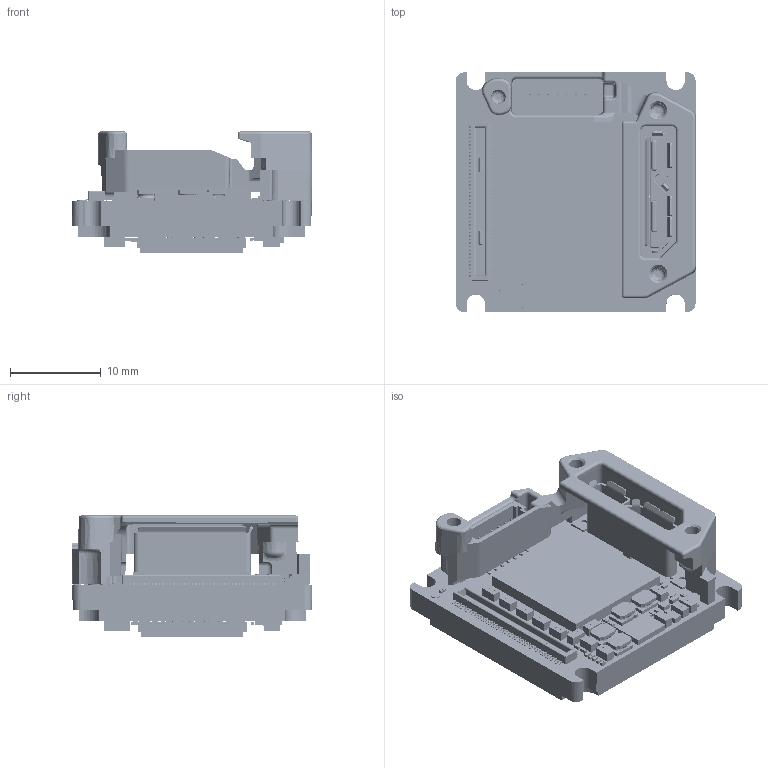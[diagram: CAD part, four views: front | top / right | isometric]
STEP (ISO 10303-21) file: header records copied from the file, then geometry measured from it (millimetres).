
FILE_DESCRIPTION (( 'STEP AP214' ), '1' );
FILE_NAME ('Alvium-USB180-Bare-Board-AR0521.STEP', '2022-10-24T13:05:56', ( '' ), ( '' ), 'SwSTEP 2.0', 'SolidWorks 2021', '' );
FILE_SCHEMA (( 'AUTOMOTIVE_DESIGN' ));
Length unit declared in the file: millimetre
Products named in the file (1): Alvium-USB180-Bare-Board-AR0521
Bounding box: 26.48 x 26.45 x 13.34 mm (x, y, z)
Surface area: 5671 mm2 (no closed solid volume)
Topology: 0 solids, 194 shells, 10871 faces, 27710 edges, 18137 vertices
Faces by surface type: plane 5248, bspline 4695, cylinder 824, cone 46, torus 40, sphere 18
Entity records: 707912 total; most frequent: CARTESIAN_POINT 356248, ORIENTED_EDGE 55386, DIRECTION 32251, EDGE_CURVE 27693, VERTEX_POINT 18137, LINE 16435, VECTOR 16435, EDGE_LOOP 11814
